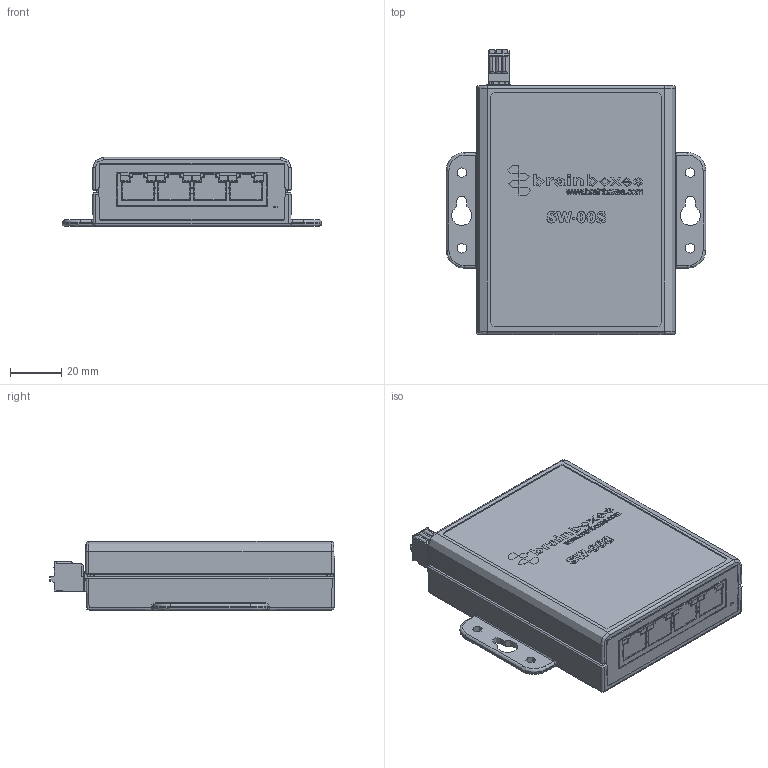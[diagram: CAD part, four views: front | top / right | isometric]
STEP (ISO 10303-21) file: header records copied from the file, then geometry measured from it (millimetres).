
FILE_DESCRIPTION(('FreeCAD Model'),'2;1');
FILE_NAME('Open CASCADE Shape Model','2023-03-22T10:22:47',('Author'),( ''),'Open CASCADE STEP processor 7.6','FreeCAD','Unknown');
FILE_SCHEMA(('AUTOMOTIVE_DESIGN { 1 0 10303 214 1 1 1 1 }'));
Products named in the file (1): For Colour SW-008
Bounding box: 101 x 111.12 x 27.1 mm (x, y, z)
Volume: 87940.7 mm3; surface area: 119335.8 mm2
Topology: 89 solids, 121 shells, 11191 faces, 31905 edges, 20916 vertices
Faces by surface type: plane 8989, cylinder 1282, bspline 704, torus 80, extrusion 76, sphere 44, cone 16
Entity records: 376733 total; most frequent: CARTESIAN_POINT 83165, ORIENTED_EDGE 63734, DIRECTION 54961, EDGE_CURVE 31867, VECTOR 27501, LINE 27425, VERTEX_POINT 20916, AXIS2_PLACEMENT_3D 13730
